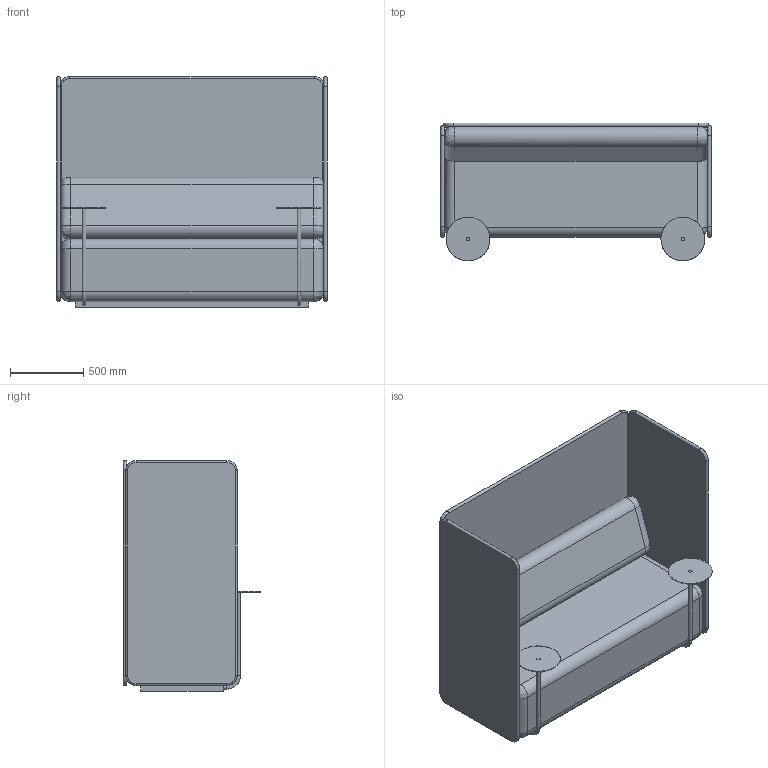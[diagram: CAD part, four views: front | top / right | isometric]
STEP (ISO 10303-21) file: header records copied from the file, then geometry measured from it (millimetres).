
FILE_DESCRIPTION(/* description */ (''),/* implementation_level */ '2;1');
FILE_NAME(/* name */ '220404_Zadkine_Two seaters High-Back 3D',/* time_stamp */ '2022-04-04T20:31:55+02:00',/* author */ (''),/* organization */ (''),/* preprocessor_version */ 'ST-DEVELOPER v16.5',/* originating_system */ 'Rhino 7.16',/* authorisation */ '');
FILE_SCHEMA (('CONFIG_CONTROL_DESIGN'));
Length unit declared in the file: millimetre
Products named in the file (1): Document
Bounding box: 1850 x 942.42 x 1580 mm (x, y, z)
Volume: 873461292.5 mm3; surface area: 19614796.7 mm2
Topology: 10 solids, 10 shells, 98 faces, 219 edges, 142 vertices
Faces by surface type: bspline 98
Entity records: 8432 total; most frequent: CARTESIAN_POINT 5818, B_SPLINE_CURVE_WITH_KNOTS 481, ORIENTED_EDGE 392, PCURVE 392, DEFINITIONAL_REPRESENTATION 392, SURFACE_CURVE 196, EDGE_CURVE 196, VERTEX_POINT 118
